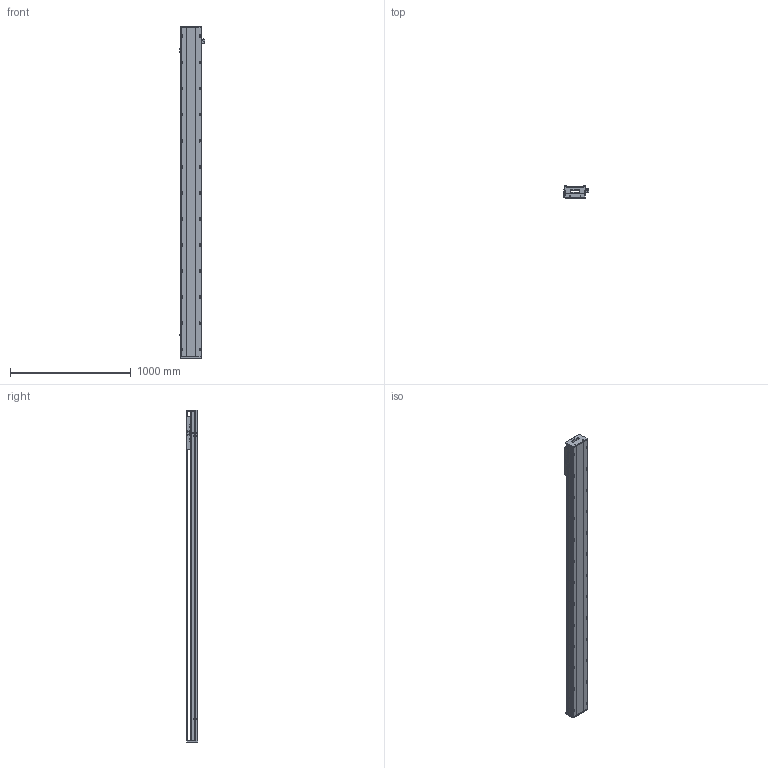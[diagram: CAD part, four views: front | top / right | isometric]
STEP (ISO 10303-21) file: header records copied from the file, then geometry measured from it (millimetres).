
FILE_DESCRIPTION (( 'STEP AP203' ), '1' );
FILE_NAME ('SKR17S-C2-S2368（简）.STEP', '2022-09-29T08:20:59', ( '' ), ( '' ), 'SwSTEP 2.0', 'SolidWorks 2018', '' );
FILE_SCHEMA (( 'CONFIG_CONTROL_DESIGN' ));
Length unit declared in the file: millimetre
Products named in the file (8): SKR17底座-C2-S2368（简); 感应片（SKR12S-14S-17S）; SKR17滑台-280L（简）; SKR17S-C2-S2368（简）; 棠掑假蚾輸; EE-SX672; SKR17耜啣; SIKO棠掑
Assembly tree (10 placements, depth 2):
  SKR17S-C2-S2368（简）
    SKR17底座-C2-S2368（简)
    SIKO棠掑
    EE-SX672  x3
    SKR17耜啣  x2
    棠掑假蚾輸
    SKR17滑台-280L（简）
    感应片（SKR12S-14S-17S）
Bounding box: 212.7 x 97 x 2748 mm (x, y, z)
Volume: 21260436.9 mm3; surface area: 2566143.3 mm2
Topology: 11 solids, 11 shells, 1432 faces, 4006 edges, 2570 vertices
Faces by surface type: cylinder 721, plane 565, cone 146
Entity records: 45091 total; most frequent: CARTESIAN_POINT 12399, ORIENTED_EDGE 6968, DIRECTION 6285, EDGE_CURVE 3484, VERTEX_POINT 2274, AXIS2_PLACEMENT_3D 2240, VECTOR 1805, LINE 1805
